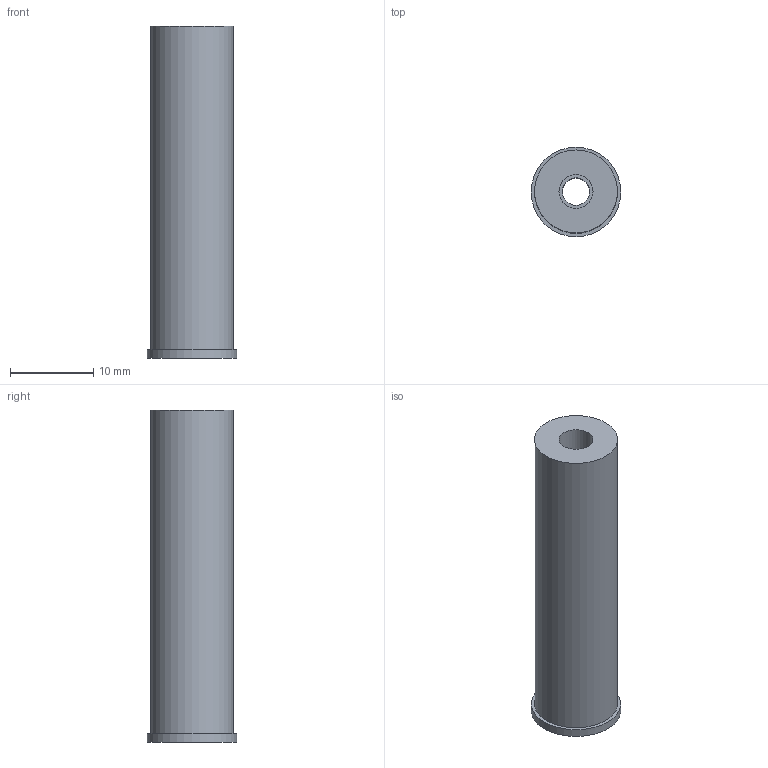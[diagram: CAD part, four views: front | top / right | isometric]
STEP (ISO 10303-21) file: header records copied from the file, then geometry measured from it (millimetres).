
FILE_DESCRIPTION(('Open CASCADE Model'),'2;1');
FILE_NAME('Open CASCADE Shape Model','2026-10-21T12:47:56',('Author'),( 'Open CASCADE'),'Open CASCADE STEP processor 7.9','Open CASCADE 7.9' ,'Unknown');
FILE_SCHEMA(('AUTOMOTIVE_DESIGN { 1 0 10303 214 1 1 1 1 }'));
Length unit declared in the file: millimetre
Products named in the file (1): Open CASCADE STEP translator 7.9 9
Bounding box: 10.8 x 10.8 x 40 mm (x, y, z)
Volume: 2784.6 mm3; surface area: 1855 mm2
Topology: 1 solids, 1 shells, 8 faces, 12 edges, 8 vertices
Faces by surface type: cylinder 4, plane 4
Full cylindrical faces by diameter (mm): 3.3 x1, 4.1 x1, 10 x1, 10.8 x1
Entity records: 354 total; most frequent: DIRECTION 62, CARTESIAN_POINT 53, ORIENTED_EDGE 24, PCURVE 24, DEFINITIONAL_REPRESENTATION 24, LINE 20, VECTOR 20, AXIS2_PLACEMENT_3D 17
